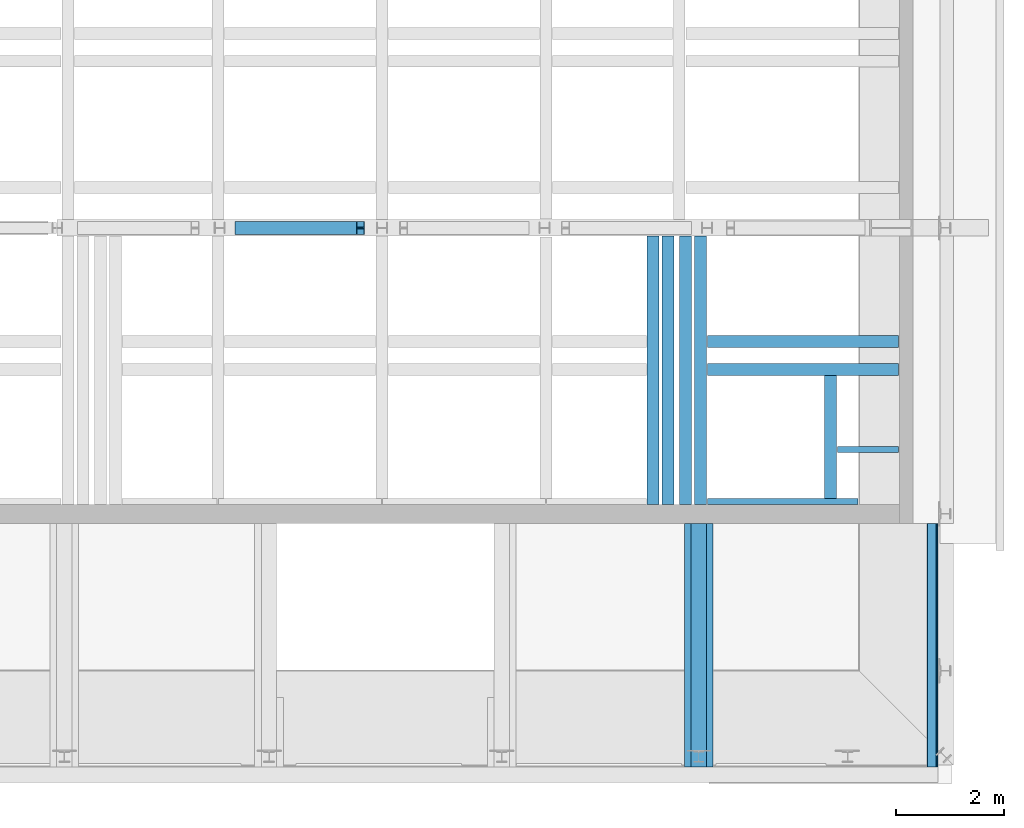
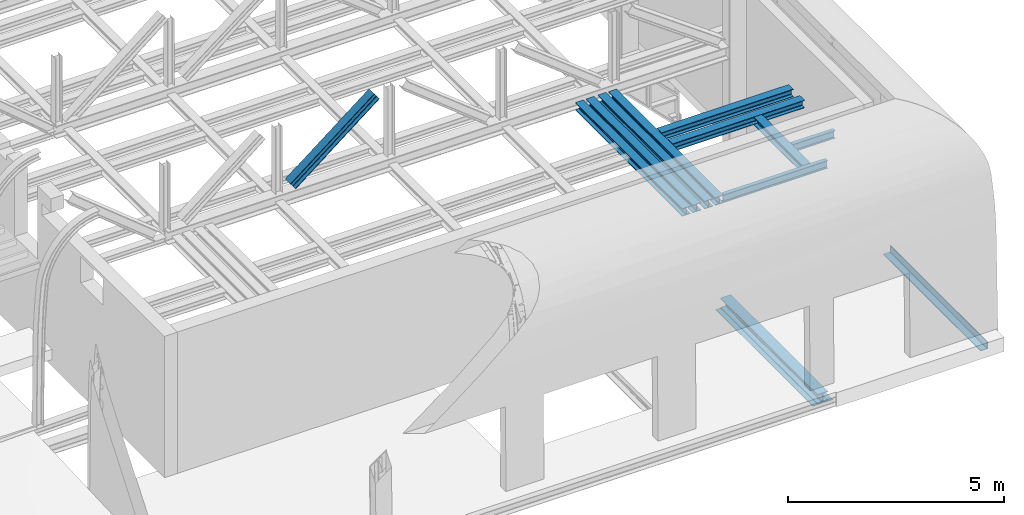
# One storey, part 11 of 29: 12 beams.
"""IFC2X3 building model written with IfcOpenShell, lengths in millimetres."""

from ifc_helpers import new_model, entity, si_unit, converted_unit, derived_unit, direction, frame, frame_2d, origin, place, context, subcontext, project, spatial, polyline, circle_curve, parameter, trimmed, segment, composite_curve, rectangle, i_section, outline, extrude, source, transform, mapped, material, material_list, type_object, type_shapes, element, save


model = new_model("IFC2X3")

# Units and contexts
model_context = context("Model", 3, precision=0.01, world=origin(), true_north=direction((6.12303176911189e-17, 1.0)))
body_context = subcontext(model_context, "Body", "Model", "MODEL_VIEW")
ifc_project = project(units=[si_unit("LENGTHUNIT", "METRE", prefix="MILLI"), si_unit("AREAUNIT", "SQUARE_METRE", prefix="MILLI"), si_unit("VOLUMEUNIT", "CUBIC_METRE"), converted_unit("PLANEANGLEUNIT", "DEGREE", entity("IfcRatioMeasure", 0.0174532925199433), si_unit("PLANEANGLEUNIT", "RADIAN"), dimensions=[0, 0, 0, 0, 0, 0, 0]), si_unit("MASSUNIT", "GRAM", prefix="KILO"), derived_unit("MASSDENSITYUNIT", [(si_unit("MASSUNIT", "GRAM", prefix="KILO"), 1), (si_unit("LENGTHUNIT", "METRE"), -3)]), derived_unit("MOMENTOFINERTIAUNIT", [(si_unit("LENGTHUNIT", "METRE"), 4)]), si_unit("TIMEUNIT", "SECOND"), si_unit("FREQUENCYUNIT", "HERTZ"), si_unit("THERMODYNAMICTEMPERATUREUNIT", "DEGREE_CELSIUS"), derived_unit("THERMALTRANSMITTANCEUNIT", [(si_unit("MASSUNIT", "GRAM", prefix="KILO"), 1), (si_unit("THERMODYNAMICTEMPERATUREUNIT", "KELVIN"), -1), (si_unit("TIMEUNIT", "SECOND"), -3)]), derived_unit("VOLUMETRICFLOWRATEUNIT", [(si_unit("LENGTHUNIT", "METRE"), 3), (si_unit("TIMEUNIT", "SECOND"), -1)]), si_unit("ELECTRICCURRENTUNIT", "AMPERE"), si_unit("ELECTRICVOLTAGEUNIT", "VOLT"), si_unit("POWERUNIT", "WATT"), si_unit("FORCEUNIT", "NEWTON", prefix="KILO"), si_unit("ILLUMINANCEUNIT", "LUX"), si_unit("LUMINOUSFLUXUNIT", "LUMEN"), si_unit("LUMINOUSINTENSITYUNIT", "CANDELA"), derived_unit("USERDEFINED", [(si_unit("MASSUNIT", "GRAM", prefix="KILO"), -1), (si_unit("LENGTHUNIT", "METRE"), -2), (si_unit("TIMEUNIT", "SECOND"), 3), (si_unit("LUMINOUSFLUXUNIT", "LUMEN"), 1)]), derived_unit("LINEARVELOCITYUNIT", [(si_unit("LENGTHUNIT", "METRE"), 1), (si_unit("TIMEUNIT", "SECOND"), -1)]), si_unit("PRESSUREUNIT", "PASCAL"), derived_unit("USERDEFINED", [(si_unit("LENGTHUNIT", "METRE"), -2), (si_unit("MASSUNIT", "GRAM", prefix="KILO"), 1), (si_unit("TIMEUNIT", "SECOND"), -2)]), derived_unit("LINEARFORCEUNIT", [(si_unit("MASSUNIT", "GRAM", prefix="KILO"), 1), (si_unit("LENGTHUNIT", "METRE"), 1), (si_unit("TIMEUNIT", "SECOND"), -2), (si_unit("LENGTHUNIT", "METRE"), -1)]), derived_unit("PLANARFORCEUNIT", [(si_unit("MASSUNIT", "GRAM", prefix="KILO"), 1), (si_unit("LENGTHUNIT", "METRE"), 1), (si_unit("TIMEUNIT", "SECOND"), -2), (si_unit("LENGTHUNIT", "METRE"), -2)])], contexts=[model_context])

# Site, building, storey
site_placement = place(None, origin())
site = spatial("IfcSite", under=ifc_project, at=site_placement, Name="Theater aan de Parade", CompositionType="ELEMENT")
building_placement = place(site_placement, origin())
building = spatial("IfcBuilding", under=site, at=building_placement, Name="Theater aan de Parade", CompositionType="ELEMENT")
storey_placement = place(building_placement, frame((0.0, 0.0, 20300.0)))
storey = spatial("IfcBuildingStorey", under=building, at=storey_placement, Name="05 vijfde verdieping", CompositionType="ELEMENT", Elevation=20300.0)

# Beams
ifc_material_1 = material(Name="00_PBT_MAT_staal_S355")
beam_type_1 = type_object("IfcBeamType", Name="28_PBT_SF_staal_H-profiel:S355_HE220B", PredefinedType="NOTDEFINED")
beam_1_placement = place(storey_placement, frame((81790.0, 19810.0002435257, 0.0), z_axis=(0.0, 0.0, 1.0), x_axis=(0.0, 1.0, 0.0)))
element("IfcBeam", 1, at=beam_1_placement, inside=storey, type_object=beam_type_1, material=ifc_material_1, Name="28_PBT_SF_staal_H-profiel:S355_HE220B", ObjectType="28_PBT_SF_staal_H-profiel:S355_HE220B", context=body_context, shape_type="SweptSolid", body=[
    extrude(outline(composite_curve([segment(polyline([(94.0, -110.0), (110.0, -110.0)]), True, "CONTINUOUS"), segment(polyline([(110.0, -110.0), (110.0, 110.0)]), True, "CONTINUOUS"), segment(polyline([(110.0, 110.0), (94.0, 110.0)]), True, "CONTINUOUS"), segment(polyline([(94.0, 110.0), (94.0, 22.7499999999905)]), True, "CONTINUOUS"), segment(trimmed(circle_curve(frame_2d((76.0, 22.7499999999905), x_axis=(1.0, 0.0)), 17.9999999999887), [parameter(269.999999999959)], [parameter(0.0)], True, "PARAMETER"), False, "CONTINUOUS"), segment(polyline([(76.0, 4.74999999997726), (-76.0, 4.74999999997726)]), True, "CONTINUOUS"), segment(trimmed(circle_curve(frame_2d((-76.0, 22.7499999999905), x_axis=(0.0, -1.0)), 17.9999999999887), [parameter(269.999999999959)], [parameter(0.0)], True, "PARAMETER"), False, "CONTINUOUS"), segment(polyline([(-94.0, 22.7500000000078), (-94.0, 110.0)]), True, "CONTINUOUS"), segment(polyline([(-94.0, 110.0), (-110.0, 110.0)]), True, "CONTINUOUS"), segment(polyline([(-110.0, 110.0), (-110.0, -110.0)]), True, "CONTINUOUS"), segment(polyline([(-110.0, -110.0), (-94.0, -110.0)]), True, "CONTINUOUS"), segment(polyline([(-94.0, -110.0), (-94.0, -22.7500000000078)]), True, "CONTINUOUS"), segment(trimmed(circle_curve(frame_2d((-76.0, -22.7500000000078), x_axis=(-1.0, 0.0)), 17.9999999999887), [parameter(269.999999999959)], [parameter(0.0)], True, "PARAMETER"), False, "CONTINUOUS"), segment(polyline([(-76.0, -4.75000000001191), (76.0, -4.75000000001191)]), True, "CONTINUOUS"), segment(trimmed(circle_curve(frame_2d((76.0, -22.7500000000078), x_axis=(0.0, 1.0)), 17.9999999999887), [parameter(269.999999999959)], [parameter(0.0)], True, "PARAMETER"), False, "CONTINUOUS"), segment(polyline([(94.0, -22.7500000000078), (94.0, -110.0)]), True, "CONTINUOUS")], self_intersect=False)), frame((0.0, 0.0, 2360.0), z_axis=(1.0, 0.0, 0.0), x_axis=(0.0, 0.0, -1.0)), (0.0, 0.0, 1.0), 4949.99975647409),
])
beam_2_placement = place(storey_placement, frame((86180.0, 22811.5, 0.0), z_axis=(0.0, 0.0, 1.0), x_axis=(-1.0, 0.0, 0.0)))
element("IfcBeam", 2, at=beam_2_placement, inside=storey, type_object=beam_type_1, material=ifc_material_1, Name="28_PBT_SF_staal_H-profiel:S355_HE220B", ObjectType="28_PBT_SF_staal_H-profiel:S355_HE220B", context=body_context, shape_type="SweptSolid", body=[
    extrude(outline(composite_curve([segment(polyline([(94.0, -110.0), (110.0, -110.0)]), True, "CONTINUOUS"), segment(polyline([(110.0, -110.0), (110.0, 110.0)]), True, "CONTINUOUS"), segment(polyline([(110.0, 110.0), (94.0, 110.0)]), True, "CONTINUOUS"), segment(polyline([(94.0, 110.0), (94.0, 22.7500000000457)]), True, "CONTINUOUS"), segment(trimmed(circle_curve(frame_2d((76.0, 22.750000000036), x_axis=(1.0, 0.0)), 18.0000000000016), [parameter(270.0)], [parameter(0.0)], True, "PARAMETER"), False, "CONTINUOUS"), segment(polyline([(76.0, 4.7500000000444), (-76.0, 4.74999999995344)]), True, "CONTINUOUS"), segment(trimmed(circle_curve(frame_2d((-76.0, 22.7499999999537), x_axis=(0.0, -1.0)), 18.0000000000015), [parameter(270.0)], [parameter(0.0)], True, "PARAMETER"), False, "CONTINUOUS"), segment(polyline([(-94.0, 22.7499999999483), (-94.0, 110.0)]), True, "CONTINUOUS"), segment(polyline([(-94.0, 110.0), (-110.0, 110.0)]), True, "CONTINUOUS"), segment(polyline([(-110.0, 110.0), (-110.0, -110.0)]), True, "CONTINUOUS"), segment(polyline([(-110.0, -110.0), (-94.0, -110.0)]), True, "CONTINUOUS"), segment(polyline([(-94.0, -110.0), (-94.0, -22.7500000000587)]), True, "CONTINUOUS"), segment(trimmed(circle_curve(frame_2d((-76.0, -22.750000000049), x_axis=(-1.0, 0.0)), 17.9999999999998), [parameter(270.0)], [parameter(0.0)], True, "PARAMETER"), False, "CONTINUOUS"), segment(polyline([(-76.0, -4.75000000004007), (76.0, -4.74999999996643)]), True, "CONTINUOUS"), segment(trimmed(circle_curve(frame_2d((76.0, -22.7499999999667), x_axis=(0.0, 1.0)), 18.0000000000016), [parameter(270.0)], [parameter(0.0)], True, "PARAMETER"), False, "CONTINUOUS"), segment(polyline([(94.0, -22.7499999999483), (94.0, -110.0)]), True, "CONTINUOUS")], self_intersect=False)), frame((137.700000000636, 0.0, 2360.0), z_axis=(1.0, 0.0, 0.0), x_axis=(0.0, 0.0, -1.0)), (0.0, 0.0, 1.0), 3529.60000000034),
])
beam_3_placement = place(storey_placement, frame((86180.0, 22297.4998, 0.0), z_axis=(0.0, 0.0, 1.0), x_axis=(-1.0, 0.0, 0.0)))
element("IfcBeam", 3, at=beam_3_placement, inside=storey, type_object=beam_type_1, material=ifc_material_1, Name="28_PBT_SF_staal_H-profiel:S355_HE220B", ObjectType="28_PBT_SF_staal_H-profiel:S355_HE220B", context=body_context, shape_type="SweptSolid", body=[
    extrude(outline(composite_curve([segment(polyline([(94.0, -110.0), (110.0, -110.0)]), True, "CONTINUOUS"), segment(polyline([(110.0, -110.0), (110.0, 110.0)]), True, "CONTINUOUS"), segment(polyline([(110.0, 110.0), (94.0, 110.0)]), True, "CONTINUOUS"), segment(polyline([(94.0, 110.0), (94.0, 22.7500000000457)]), True, "CONTINUOUS"), segment(trimmed(circle_curve(frame_2d((76.0, 22.750000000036), x_axis=(1.0, 0.0)), 18.0000000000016), [parameter(270.0)], [parameter(0.0)], True, "PARAMETER"), False, "CONTINUOUS"), segment(polyline([(76.0, 4.7500000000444), (-76.0, 4.74999999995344)]), True, "CONTINUOUS"), segment(trimmed(circle_curve(frame_2d((-76.0, 22.7499999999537), x_axis=(0.0, -1.0)), 18.0000000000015), [parameter(270.0)], [parameter(0.0)], True, "PARAMETER"), False, "CONTINUOUS"), segment(polyline([(-94.0, 22.7499999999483), (-94.0, 110.0)]), True, "CONTINUOUS"), segment(polyline([(-94.0, 110.0), (-110.0, 110.0)]), True, "CONTINUOUS"), segment(polyline([(-110.0, 110.0), (-110.0, -110.0)]), True, "CONTINUOUS"), segment(polyline([(-110.0, -110.0), (-94.0, -110.0)]), True, "CONTINUOUS"), segment(polyline([(-94.0, -110.0), (-94.0, -22.7500000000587)]), True, "CONTINUOUS"), segment(trimmed(circle_curve(frame_2d((-76.0, -22.750000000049), x_axis=(-1.0, 0.0)), 17.9999999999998), [parameter(270.0)], [parameter(0.0)], True, "PARAMETER"), False, "CONTINUOUS"), segment(polyline([(-76.0, -4.75000000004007), (76.0, -4.74999999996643)]), True, "CONTINUOUS"), segment(trimmed(circle_curve(frame_2d((76.0, -22.7499999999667), x_axis=(0.0, 1.0)), 18.0000000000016), [parameter(270.0)], [parameter(0.0)], True, "PARAMETER"), False, "CONTINUOUS"), segment(polyline([(94.0, -22.7499999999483), (94.0, -110.0)]), True, "CONTINUOUS")], self_intersect=False)), frame((137.700000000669, 0.0, 2360.0), z_axis=(1.0, 0.0, 0.0), x_axis=(0.0, 0.0, -1.0)), (0.0, 0.0, 1.0), 3529.60000000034),
])
beam_4_placement = place(storey_placement, frame((84787.5133272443, 19866.8002435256, 0.0), z_axis=(0.0, 0.0, 1.0), x_axis=(0.0, 1.0, 0.0)))
element("IfcBeam", 4, at=beam_4_placement, inside=storey, type_object=beam_type_1, material=ifc_material_1, Name="28_PBT_SF_staal_H-profiel:S355_HE220B", ObjectType="28_PBT_SF_staal_H-profiel:S355_HE220B", context=body_context, shape_type="SweptSolid", body=[
    extrude(outline(composite_curve([segment(polyline([(94.0, -110.0), (110.0, -110.0)]), True, "CONTINUOUS"), segment(polyline([(110.0, -110.0), (110.0, 110.0)]), True, "CONTINUOUS"), segment(polyline([(110.0, 110.0), (94.0, 110.0)]), True, "CONTINUOUS"), segment(polyline([(94.0, 110.0), (94.0, 22.7500000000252)]), True, "CONTINUOUS"), segment(trimmed(circle_curve(frame_2d((76.0, 22.7500000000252), x_axis=(1.0, 0.0)), 17.9999999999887), [parameter(269.999999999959)], [parameter(0.0)], True, "PARAMETER"), False, "CONTINUOUS"), segment(polyline([(76.0, 4.75000000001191), (-76.0, 4.75000000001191)]), True, "CONTINUOUS"), segment(trimmed(circle_curve(frame_2d((-76.0, 22.7500000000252), x_axis=(0.0, -1.0)), 17.9999999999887), [parameter(269.999999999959)], [parameter(0.0)], True, "PARAMETER"), False, "CONTINUOUS"), segment(polyline([(-94.0, 22.7500000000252), (-94.0, 110.0)]), True, "CONTINUOUS"), segment(polyline([(-94.0, 110.0), (-110.0, 110.0)]), True, "CONTINUOUS"), segment(polyline([(-110.0, 110.0), (-110.0, -110.0)]), True, "CONTINUOUS"), segment(polyline([(-110.0, -110.0), (-94.0, -110.0)]), True, "CONTINUOUS"), segment(polyline([(-94.0, -110.0), (-94.0, -22.7499999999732)]), True, "CONTINUOUS"), segment(trimmed(circle_curve(frame_2d((-76.0, -22.7499999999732), x_axis=(-1.0, 0.0)), 17.9999999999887), [parameter(269.999999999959)], [parameter(0.0)], True, "PARAMETER"), False, "CONTINUOUS"), segment(polyline([(-76.0, -4.74999999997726), (76.0, -4.74999999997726)]), True, "CONTINUOUS"), segment(trimmed(circle_curve(frame_2d((76.0, -22.7499999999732), x_axis=(0.0, 1.0)), 17.9999999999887), [parameter(269.999999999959)], [parameter(0.0)], True, "PARAMETER"), False, "CONTINUOUS"), segment(polyline([(94.0, -22.7499999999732), (94.0, -110.0)]), True, "CONTINUOUS")], self_intersect=False)), frame((0.0, 0.0, 2360.0), z_axis=(1.0, 0.0, 0.0), x_axis=(0.0, 0.0, -1.0)), (0.0, 0.0, 1.0), 2320.69955647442),
])
beam_5_placement = place(storey_placement, frame((81510.0, 19810.0002435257, 0.0), z_axis=(0.0, 0.0, 1.0), x_axis=(0.0, 1.0, 0.0)))
element("IfcBeam", 5, at=beam_5_placement, inside=storey, type_object=beam_type_1, material=ifc_material_1, Name="28_PBT_SF_staal_H-profiel:S355_HE220B", ObjectType="28_PBT_SF_staal_H-profiel:S355_HE220B", context=body_context, shape_type="SweptSolid", body=[
    extrude(outline(composite_curve([segment(polyline([(94.0, -110.0), (110.0, -110.0)]), True, "CONTINUOUS"), segment(polyline([(110.0, -110.0), (110.0, 110.0)]), True, "CONTINUOUS"), segment(polyline([(110.0, 110.0), (94.0, 110.0)]), True, "CONTINUOUS"), segment(polyline([(94.0, 110.0), (94.0, 22.7500000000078)]), True, "CONTINUOUS"), segment(trimmed(circle_curve(frame_2d((76.0, 22.7500000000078), x_axis=(1.0, 0.0)), 17.9999999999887), [parameter(269.999999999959)], [parameter(0.0)], True, "PARAMETER"), False, "CONTINUOUS"), segment(polyline([(76.0, 4.74999999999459), (-76.0, 4.74999999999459)]), True, "CONTINUOUS"), segment(trimmed(circle_curve(frame_2d((-76.0, 22.7500000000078), x_axis=(0.0, -1.0)), 17.9999999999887), [parameter(269.999999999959)], [parameter(0.0)], True, "PARAMETER"), False, "CONTINUOUS"), segment(polyline([(-94.0, 22.7500000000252), (-94.0, 110.0)]), True, "CONTINUOUS"), segment(polyline([(-94.0, 110.0), (-110.0, 110.0)]), True, "CONTINUOUS"), segment(polyline([(-110.0, 110.0), (-110.0, -110.0)]), True, "CONTINUOUS"), segment(polyline([(-110.0, -110.0), (-94.0, -110.0)]), True, "CONTINUOUS"), segment(polyline([(-94.0, -110.0), (-94.0, -22.7499999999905)]), True, "CONTINUOUS"), segment(trimmed(circle_curve(frame_2d((-76.0, -22.7499999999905), x_axis=(-1.0, 0.0)), 17.9999999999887), [parameter(269.999999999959)], [parameter(0.0)], True, "PARAMETER"), False, "CONTINUOUS"), segment(polyline([(-76.0, -4.74999999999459), (76.0, -4.74999999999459)]), True, "CONTINUOUS"), segment(trimmed(circle_curve(frame_2d((76.0, -22.7499999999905), x_axis=(0.0, 1.0)), 17.9999999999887), [parameter(269.999999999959)], [parameter(0.0)], True, "PARAMETER"), False, "CONTINUOUS"), segment(polyline([(94.0, -22.7499999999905), (94.0, -110.0)]), True, "CONTINUOUS")], self_intersect=False)), frame((0.0, 0.0, 2360.0), z_axis=(1.0, 0.0, 0.0), x_axis=(0.0, 0.0, -1.0)), (0.0, 0.0, 1.0), 4949.99975647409),
])
beam_6_placement = place(storey_placement, frame((82390.0, 19810.0002435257, 0.0), z_axis=(0.0, 0.0, 1.0), x_axis=(0.0, 1.0, 0.0)))
element("IfcBeam", 6, at=beam_6_placement, inside=storey, type_object=beam_type_1, material=ifc_material_1, Name="28_PBT_SF_staal_H-profiel:S355_HE220B", ObjectType="28_PBT_SF_staal_H-profiel:S355_HE220B", context=body_context, shape_type="SweptSolid", body=[
    extrude(outline(composite_curve([segment(polyline([(94.0, -110.0), (110.0, -110.0)]), True, "CONTINUOUS"), segment(polyline([(110.0, -110.0), (110.0, 110.0)]), True, "CONTINUOUS"), segment(polyline([(110.0, 110.0), (94.0, 110.0)]), True, "CONTINUOUS"), segment(polyline([(94.0, 110.0), (94.0, 22.7499999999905)]), True, "CONTINUOUS"), segment(trimmed(circle_curve(frame_2d((76.0, 22.7499999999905), x_axis=(1.0, 0.0)), 17.9999999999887), [parameter(269.999999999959)], [parameter(0.0)], True, "PARAMETER"), False, "CONTINUOUS"), segment(polyline([(76.0, 4.74999999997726), (-76.0, 4.74999999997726)]), True, "CONTINUOUS"), segment(trimmed(circle_curve(frame_2d((-76.0, 22.7499999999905), x_axis=(0.0, -1.0)), 17.9999999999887), [parameter(269.999999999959)], [parameter(0.0)], True, "PARAMETER"), False, "CONTINUOUS"), segment(polyline([(-94.0, 22.7500000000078), (-94.0, 110.0)]), True, "CONTINUOUS"), segment(polyline([(-94.0, 110.0), (-110.0, 110.0)]), True, "CONTINUOUS"), segment(polyline([(-110.0, 110.0), (-110.0, -110.0)]), True, "CONTINUOUS"), segment(polyline([(-110.0, -110.0), (-94.0, -110.0)]), True, "CONTINUOUS"), segment(polyline([(-94.0, -110.0), (-94.0, -22.7500000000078)]), True, "CONTINUOUS"), segment(trimmed(circle_curve(frame_2d((-76.0, -22.7500000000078), x_axis=(-1.0, 0.0)), 17.9999999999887), [parameter(269.999999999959)], [parameter(0.0)], True, "PARAMETER"), False, "CONTINUOUS"), segment(polyline([(-76.0, -4.75000000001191), (76.0, -4.75000000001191)]), True, "CONTINUOUS"), segment(trimmed(circle_curve(frame_2d((76.0, -22.7500000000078), x_axis=(0.0, 1.0)), 17.9999999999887), [parameter(269.999999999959)], [parameter(0.0)], True, "PARAMETER"), False, "CONTINUOUS"), segment(polyline([(94.0, -22.7500000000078), (94.0, -110.0)]), True, "CONTINUOUS")], self_intersect=False)), frame((0.0, 0.0, 2360.0), z_axis=(1.0, 0.0, 0.0), x_axis=(0.0, 0.0, -1.0)), (0.0, 0.0, 1.0), 4949.99975647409),
])
beam_7_placement = place(storey_placement, frame((82110.0, 19810.0002435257, 0.0), z_axis=(0.0, 0.0, 1.0), x_axis=(0.0, 1.0, 0.0)))
element("IfcBeam", 7, at=beam_7_placement, inside=storey, type_object=beam_type_1, material=ifc_material_1, Name="28_PBT_SF_staal_H-profiel:S355_HE220B", ObjectType="28_PBT_SF_staal_H-profiel:S355_HE220B", context=body_context, shape_type="SweptSolid", body=[
    extrude(outline(composite_curve([segment(polyline([(94.0, -110.0), (110.0, -110.0)]), True, "CONTINUOUS"), segment(polyline([(110.0, -110.0), (110.0, 110.0)]), True, "CONTINUOUS"), segment(polyline([(110.0, 110.0), (94.0, 110.0)]), True, "CONTINUOUS"), segment(polyline([(94.0, 110.0), (94.0, 22.7500000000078)]), True, "CONTINUOUS"), segment(trimmed(circle_curve(frame_2d((76.0, 22.7500000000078), x_axis=(1.0, 0.0)), 17.9999999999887), [parameter(269.999999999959)], [parameter(0.0)], True, "PARAMETER"), False, "CONTINUOUS"), segment(polyline([(76.0, 4.74999999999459), (-76.0, 4.74999999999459)]), True, "CONTINUOUS"), segment(trimmed(circle_curve(frame_2d((-76.0, 22.7500000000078), x_axis=(0.0, -1.0)), 17.9999999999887), [parameter(269.999999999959)], [parameter(0.0)], True, "PARAMETER"), False, "CONTINUOUS"), segment(polyline([(-94.0, 22.7500000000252), (-94.0, 110.0)]), True, "CONTINUOUS"), segment(polyline([(-94.0, 110.0), (-110.0, 110.0)]), True, "CONTINUOUS"), segment(polyline([(-110.0, 110.0), (-110.0, -110.0)]), True, "CONTINUOUS"), segment(polyline([(-110.0, -110.0), (-94.0, -110.0)]), True, "CONTINUOUS"), segment(polyline([(-94.0, -110.0), (-94.0, -22.7499999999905)]), True, "CONTINUOUS"), segment(trimmed(circle_curve(frame_2d((-76.0, -22.7499999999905), x_axis=(-1.0, 0.0)), 17.9999999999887), [parameter(269.999999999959)], [parameter(0.0)], True, "PARAMETER"), False, "CONTINUOUS"), segment(polyline([(-76.0, -4.74999999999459), (76.0, -4.74999999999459)]), True, "CONTINUOUS"), segment(trimmed(circle_curve(frame_2d((76.0, -22.7499999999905), x_axis=(0.0, 1.0)), 17.9999999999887), [parameter(269.999999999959)], [parameter(0.0)], True, "PARAMETER"), False, "CONTINUOUS"), segment(polyline([(94.0, -22.7499999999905), (94.0, -110.0)]), True, "CONTINUOUS")], self_intersect=False)), frame((0.0, 0.0, 2360.0), z_axis=(1.0, 0.0, 0.0), x_axis=(0.0, 0.0, -1.0)), (0.0, 0.0, 1.0), 4949.99975647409),
])
beam_type_2 = type_object("IfcBeamType", Name="28_PBT_SF_staal_L-profiel:S355_L200x200x20", PredefinedType="NOTDEFINED")
beam_8_placement = place(storey_placement, frame((86709.1999999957, 14962.0, 0.0), z_axis=(0.0, 0.0, 1.0), x_axis=(0.0, 1.0, 0.0)))
element("IfcBeam", 8, at=beam_8_placement, inside=storey, type_object=beam_type_2, material=ifc_material_1, Name="28_PBT_SF_staal_L-profiel:S355_L200x200x20", ObjectType="28_PBT_SF_staal_L-profiel:S355_L200x200x20", context=body_context, shape_type="SweptSolid", body=[
    extrude(outline(composite_curve([segment(polyline([(-124.444444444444, -75.5555555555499), (75.5555555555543, -75.5555555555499)]), True, "CONTINUOUS"), segment(polyline([(75.5555555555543, -75.5555555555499), (75.5555555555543, 124.444444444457)]), True, "CONTINUOUS"), segment(polyline([(75.5555555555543, 124.444444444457), (64.5555555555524, 124.444444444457)]), True, "CONTINUOUS"), segment(trimmed(circle_curve(frame_2d((64.5555555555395, 115.444444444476), x_axis=(0.0, 1.0)), 8.99999999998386), [parameter(0.0)], [parameter(90.0000000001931)], True, "PARAMETER"), True, "CONTINUOUS"), segment(polyline([(55.5555555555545, 115.444444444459), (55.5555555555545, -37.5555555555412)]), True, "CONTINUOUS"), segment(trimmed(circle_curve(frame_2d((37.5555555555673, -37.5555555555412), x_axis=(1.0, 0.0)), 17.9999999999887), [parameter(269.999999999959)], [parameter(0.0)], True, "PARAMETER"), False, "CONTINUOUS"), segment(polyline([(37.5555555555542, -55.5555555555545), (-115.444444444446, -55.5555555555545)]), True, "CONTINUOUS"), segment(trimmed(circle_curve(frame_2d((-115.444444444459, -64.5555555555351), x_axis=(0.0, 1.0)), 8.99999999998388), [parameter(0.0)], [parameter(90.0000000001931)], True, "PARAMETER"), True, "CONTINUOUS"), segment(polyline([(-124.444444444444, -64.5555555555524), (-124.444444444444, -75.5555555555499)]), True, "CONTINUOUS")], self_intersect=False)), frame((0.0, 18.7555555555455, -349.444444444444), z_axis=(1.0, 0.0, 0.0), x_axis=(0.0, 0.0, -1.0)), (0.0, 0.0, 1.0), 4498.00024352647),
])
beam_type_3 = type_object("IfcBeamType", Name="28_PBT_SF_staal_H-profiel:S355_HE240B", PredefinedType="NOTDEFINED")
beam_9_placement = place(storey_placement, frame((73514.8549241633, 24910.0, 2429.0), z_axis=(-0.618791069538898, 0.0, 0.785555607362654), x_axis=(0.785555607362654, 0.0, 0.618791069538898)))
element("IfcBeam", 9, at=beam_9_placement, inside=storey, type_object=beam_type_3, material=ifc_material_1, Name="28_PBT_SF_staal_H-profiel:S355_HE240B", ObjectType="28_PBT_SF_staal_H-profiel:S355_HE240B", context=body_context, shape_type="SweptSolid", body=[
    extrude(outline(composite_curve([segment(polyline([(103.0, -120.0), (120.0, -120.0)]), True, "CONTINUOUS"), segment(polyline([(120.0, -120.0), (120.0, 120.0)]), True, "CONTINUOUS"), segment(polyline([(120.0, 120.0), (103.0, 120.0)]), True, "CONTINUOUS"), segment(polyline([(103.0, 120.0), (103.0, 26.0)]), True, "CONTINUOUS"), segment(trimmed(circle_curve(frame_2d((82.0, 26.0), x_axis=(1.0, 0.0)), 20.9999999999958), [parameter(269.999999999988)], [parameter(0.0)], True, "PARAMETER"), False, "CONTINUOUS"), segment(polyline([(82.0, 5.0), (-82.0, 5.0)]), True, "CONTINUOUS"), segment(trimmed(circle_curve(frame_2d((-82.0, 26.0), x_axis=(0.0, -1.0)), 20.9999999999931), [parameter(269.999999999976)], [parameter(0.0)], True, "PARAMETER"), False, "CONTINUOUS"), segment(polyline([(-103.0, 26.0), (-103.0, 120.0)]), True, "CONTINUOUS"), segment(polyline([(-103.0, 120.0), (-120.0, 120.0)]), True, "CONTINUOUS"), segment(polyline([(-120.0, 120.0), (-120.0, -120.0)]), True, "CONTINUOUS"), segment(polyline([(-120.0, -120.0), (-103.0, -120.0)]), True, "CONTINUOUS"), segment(polyline([(-103.0, -120.0), (-103.0, -26.0)]), True, "CONTINUOUS"), segment(trimmed(circle_curve(frame_2d((-82.0, -26.0), x_axis=(-1.0, 0.0)), 20.999999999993), [parameter(269.999999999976)], [parameter(0.0)], True, "PARAMETER"), False, "CONTINUOUS"), segment(polyline([(-82.0, -5.0), (82.0, -5.0)]), True, "CONTINUOUS"), segment(trimmed(circle_curve(frame_2d((82.0, -26.0), x_axis=(0.0, 1.0)), 20.9999999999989), [parameter(270.0)], [parameter(0.0)], True, "PARAMETER"), False, "CONTINUOUS"), segment(polyline([(103.0, -26.0), (103.0, -120.0)]), True, "CONTINUOUS")], self_intersect=False)), frame((455.929849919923, 0.0, 0.0), z_axis=(1.0, 0.0, 0.0), x_axis=(0.0, 0.0, -1.0)), (0.0, 0.0, 1.0), 2851.93088255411),
])
beam_type_4 = type_object("IfcBeamType", Name="28_PBT_SF_staal_IPE-profiel:S355_IPE220", PredefinedType="NOTDEFINED")
beam_10_placement = place(storey_placement, frame((86180.0, 19865.0002435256, 0.0), z_axis=(0.0, 0.0, 1.0), x_axis=(-1.0, 0.0, 0.0)))
element("IfcBeam", 10, at=beam_10_placement, inside=storey, type_object=beam_type_4, material=ifc_material_1, Name="28_PBT_SF_staal_IPE-profiel:S355_IPE220", ObjectType="28_PBT_SF_staal_IPE-profiel:S355_IPE220", context=body_context, shape_type="SweptSolid", body=[
    extrude(outline(composite_curve([segment(polyline([(100.800000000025, -55.0), (110.0, -55.0)]), True, "CONTINUOUS"), segment(polyline([(110.0, -55.0), (110.0, 55.0)]), True, "CONTINUOUS"), segment(polyline([(110.0, 55.0), (100.79999999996, 55.0)]), True, "CONTINUOUS"), segment(polyline([(100.799999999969, 55.0), (100.799999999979, 14.9500000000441)]), True, "CONTINUOUS"), segment(trimmed(circle_curve(frame_2d((88.7999999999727, 14.9500000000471), x_axis=(1.0, 0.0)), 12.0000000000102), [parameter(270.000000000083)], [parameter(0.0)], True, "PARAMETER"), False, "CONTINUOUS"), segment(polyline([(88.7999999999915, 2.95000000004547), (-88.8000000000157, 2.94999999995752)]), True, "CONTINUOUS"), segment(trimmed(circle_curve(frame_2d((-88.8000000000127, 14.9499999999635), x_axis=(0.0, -1.0)), 12.0000000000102), [parameter(270.000000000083)], [parameter(0.0)], True, "PARAMETER"), False, "CONTINUOUS"), segment(polyline([(-100.80000000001, 14.9499999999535), (-100.800000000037, 55.0)]), True, "CONTINUOUS"), segment(polyline([(-100.800000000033, 55.0), (-110.0, 55.0)]), True, "CONTINUOUS"), segment(polyline([(-110.0, 55.0), (-110.0, -55.0)]), True, "CONTINUOUS"), segment(polyline([(-110.0, -55.0), (-100.799999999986, -55.0)]), True, "CONTINUOUS"), segment(polyline([(-100.799999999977, -55.0), (-100.800000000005, -14.9500000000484)]), True, "CONTINUOUS"), segment(trimmed(circle_curve(frame_2d((-88.7999999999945, -14.9500000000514), x_axis=(-1.0, 0.0)), 12.0000000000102), [parameter(270.000000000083)], [parameter(0.0)], True, "PARAMETER"), False, "CONTINUOUS"), segment(polyline([(-88.8000000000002, -2.95000000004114), (88.7999999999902, -2.94999999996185)]), True, "CONTINUOUS"), segment(trimmed(circle_curve(frame_2d((88.7999999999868, -14.9499999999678), x_axis=(0.0, 1.0)), 12.0000000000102), [parameter(270.000000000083)], [parameter(0.0)], True, "PARAMETER"), False, "CONTINUOUS"), segment(polyline([(100.800000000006, -14.9499999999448), (100.800000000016, -55.0)]), True, "CONTINUOUS")], self_intersect=False)), frame((890.750584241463, 0.0, 2360.0), z_axis=(1.0, 0.0, 0.0), x_axis=(0.0, 0.0, -1.0)), (0.0, 0.0, 1.0), 2776.54941576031),
])
beam_11_placement = place(storey_placement, frame((86180.0, 20825.0, 0.0), z_axis=(0.0, 0.0, 1.0), x_axis=(-1.0, 0.0, 0.0)))
element("IfcBeam", 11, at=beam_11_placement, inside=storey, type_object=beam_type_4, material=ifc_material_1, Name="28_PBT_SF_staal_IPE-profiel:S355_IPE220", ObjectType="28_PBT_SF_staal_IPE-profiel:S355_IPE220", context=body_context, shape_type="SweptSolid", body=[
    extrude(outline(composite_curve([segment(polyline([(100.800000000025, -55.0), (110.0, -55.0)]), True, "CONTINUOUS"), segment(polyline([(110.0, -55.0), (110.0, 55.0)]), True, "CONTINUOUS"), segment(polyline([(110.0, 55.0), (100.79999999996, 55.0)]), True, "CONTINUOUS"), segment(polyline([(100.799999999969, 55.0), (100.799999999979, 14.9500000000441)]), True, "CONTINUOUS"), segment(trimmed(circle_curve(frame_2d((88.7999999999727, 14.9500000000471), x_axis=(1.0, 0.0)), 12.0000000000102), [parameter(270.000000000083)], [parameter(0.0)], True, "PARAMETER"), False, "CONTINUOUS"), segment(polyline([(88.7999999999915, 2.95000000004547), (-88.8000000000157, 2.94999999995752)]), True, "CONTINUOUS"), segment(trimmed(circle_curve(frame_2d((-88.8000000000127, 14.9499999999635), x_axis=(0.0, -1.0)), 12.0000000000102), [parameter(270.000000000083)], [parameter(0.0)], True, "PARAMETER"), False, "CONTINUOUS"), segment(polyline([(-100.80000000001, 14.9499999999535), (-100.800000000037, 55.0)]), True, "CONTINUOUS"), segment(polyline([(-100.800000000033, 55.0), (-110.0, 55.0)]), True, "CONTINUOUS"), segment(polyline([(-110.0, 55.0), (-110.0, -55.0)]), True, "CONTINUOUS"), segment(polyline([(-110.0, -55.0), (-100.799999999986, -55.0)]), True, "CONTINUOUS"), segment(polyline([(-100.799999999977, -55.0), (-100.800000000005, -14.9500000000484)]), True, "CONTINUOUS"), segment(trimmed(circle_curve(frame_2d((-88.7999999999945, -14.9500000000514), x_axis=(-1.0, 0.0)), 12.0000000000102), [parameter(270.000000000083)], [parameter(0.0)], True, "PARAMETER"), False, "CONTINUOUS"), segment(polyline([(-88.8000000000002, -2.95000000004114), (88.7999999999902, -2.94999999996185)]), True, "CONTINUOUS"), segment(trimmed(circle_curve(frame_2d((88.7999999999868, -14.9499999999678), x_axis=(0.0, 1.0)), 12.0000000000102), [parameter(270.000000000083)], [parameter(0.0)], True, "PARAMETER"), False, "CONTINUOUS"), segment(polyline([(100.800000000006, -14.9499999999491), (100.800000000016, -55.0)]), True, "CONTINUOUS")], self_intersect=False)), frame((137.699999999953, 0.0, 2360.0), z_axis=(1.0, 0.0, 0.0), x_axis=(0.0, 0.0, -1.0)), (0.0, 0.0, 1.0), 1132.08667275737),
])
ifc_material_2 = material(Name="00_PBT_MAT_Lucht")
ifc_material_list = material_list([ifc_material_2, ifc_material_1])
beam_type_5 = type_object("IfcBeamType", Name="28_PBT_SF_staal_H-profiel_met_onderplaat (void):S355_HE280B + onderplaat d=12", PredefinedType="BEAM", material=ifc_material_list)
shared_shape = source(origin(), body_context, "Body", "SweptSolid", [
    extrude(i_section(OverallWidth=280.000000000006, OverallDepth=279.999999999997, WebThickness=10.5000000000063, FlangeThickness=18.0000000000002, FilletRadius=23.9999999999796, at=frame_2d((0.0, -4.32009983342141e-12), x_axis=(1.0, 0.0))), frame((82355.5084217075, 19460.0002435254, 20035.0), z_axis=(0.0, -1.0, 0.0), x_axis=(-1.0, 0.0, 0.0)), (0.0, 0.0, 1.0), 4498.00024352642),
    extrude(rectangle(XDim=12.0000000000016, YDim=530.000000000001, at=frame_2d((8.64019966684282e-12, 0.0), x_axis=(0.0, 1.0))), frame((82355.5084217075, 19460.0002435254, 19889.0), z_axis=(0.0, -1.0, 0.0), x_axis=(-1.0, 0.0, 0.0)), (0.0, 0.0, 1.0), 4498.00024352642),
])
type_shapes(beam_type_5, [shared_shape])
beam_12_placement = place(storey_placement, frame((0.0, 0.0, -20300.0)))
element("IfcBeam", 12, at=beam_12_placement, inside=storey, type_object=beam_type_5, material=ifc_material_1, Name="28_PBT_SF_staal_H-profiel_met_onderplaat (void):S355_HE280B + onderplaat d=12", ObjectType="28_PBT_SF_staal_H-profiel_met_onderplaat (void):S355_HE280B + onderplaat d=12", context=body_context, shape_type="MappedRepresentation", body=[
    mapped(shared_shape, transform((0.0, 0.0, 0.0), scale=1.0)),
])

save(model, "model.ifc")
